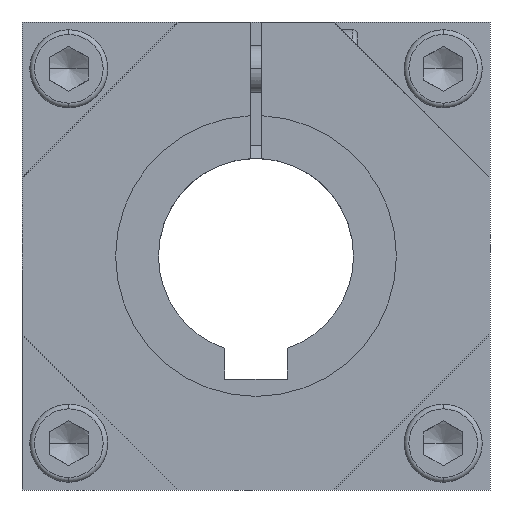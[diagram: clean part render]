
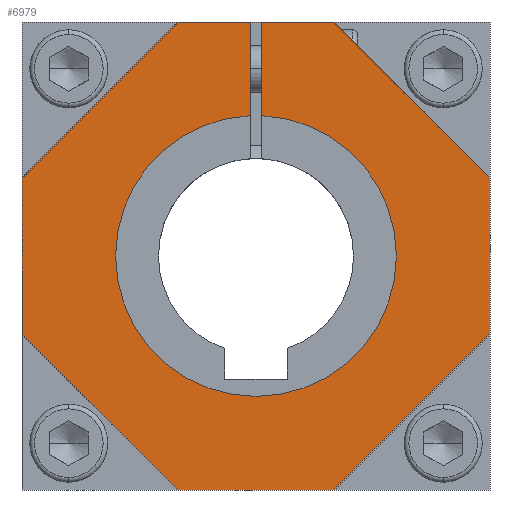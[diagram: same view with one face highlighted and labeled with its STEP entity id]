
A CAD part, front view. The second image highlights one B-rep face of the part: STEP entity #6979.
In plain terms, the highlighted planar face has unit normal (0, -1, 0).
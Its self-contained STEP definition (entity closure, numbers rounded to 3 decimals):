
#427=CARTESIAN_POINT('',(18.0,3.,0.));
#428=VERTEX_POINT('',#427);
#437=CARTESIAN_POINT('',(0.75,3.,17.984));
#438=VERTEX_POINT('',#437);
#439=CARTESIAN_POINT('',(0.0,3.,0.0));
#440=DIRECTION('',(0.0,-1.0,0.0));
#441=DIRECTION('',(-1.0,0.0,0.0));
#442=AXIS2_PLACEMENT_3D('',#439,#440,#441);
#443=CIRCLE('',#442,18.0);
#444=EDGE_CURVE('',#428,#438,#443,.T.);
#471=CARTESIAN_POINT('',(-18.0,3.,0.));
#472=VERTEX_POINT('',#471);
#488=CARTESIAN_POINT('',(-0.75,3.,17.984));
#489=VERTEX_POINT('',#488);
#496=CARTESIAN_POINT('',(0.0,3.,0.0));
#497=DIRECTION('',(0.0,-1.0,0.0));
#498=DIRECTION('',(-1.0,0.0,0.0));
#499=AXIS2_PLACEMENT_3D('',#496,#497,#498);
#500=CIRCLE('',#499,18.0);
#501=EDGE_CURVE('',#489,#472,#500,.T.);
#6122=CARTESIAN_POINT('',(30.0,3.,10.0));
#6123=VERTEX_POINT('',#6122);
#6130=CARTESIAN_POINT('',(30.0,3.,-10.));
#6131=VERTEX_POINT('',#6130);
#6132=CARTESIAN_POINT('',(30.0,3.,10.0));
#6133=DIRECTION('',(0.0,0.0,-1.0));
#6134=VECTOR('',#6133,20.);
#6135=LINE('',#6132,#6134);
#6136=EDGE_CURVE('',#6123,#6131,#6135,.T.);
#6185=CARTESIAN_POINT('',(10.,3.,30.0));
#6186=VERTEX_POINT('',#6185);
#6193=CARTESIAN_POINT('',(10.,3.,30.0));
#6194=DIRECTION('',(0.707,0.0,-0.707));
#6195=VECTOR('',#6194,28.284);
#6196=LINE('',#6193,#6195);
#6197=EDGE_CURVE('',#6186,#6123,#6196,.T.);
#6253=CARTESIAN_POINT('',(-0.75,3.,30.0));
#6254=VERTEX_POINT('',#6253);
#6261=CARTESIAN_POINT('',(-0.75,3.,17.984));
#6262=DIRECTION('',(0.0,0.0,1.0));
#6263=VECTOR('',#6262,12.016);
#6264=LINE('',#6261,#6263);
#6265=EDGE_CURVE('',#489,#6254,#6264,.T.);
#6341=CARTESIAN_POINT('',(-30.0,3.,-10.));
#6342=VERTEX_POINT('',#6341);
#6349=CARTESIAN_POINT('',(-30.0,3.,10.0));
#6350=VERTEX_POINT('',#6349);
#6351=CARTESIAN_POINT('',(-30.0,3.,-10.));
#6352=DIRECTION('',(0.0,0.0,1.0));
#6353=VECTOR('',#6352,20.);
#6354=LINE('',#6351,#6353);
#6355=EDGE_CURVE('',#6342,#6350,#6354,.T.);
#6372=CARTESIAN_POINT('',(-10.0,3.,30.0));
#6373=VERTEX_POINT('',#6372);
#6380=CARTESIAN_POINT('',(-10.0,3.,30.0));
#6381=DIRECTION('',(1.0,0.0,0.0));
#6382=VECTOR('',#6381,9.25);
#6383=LINE('',#6380,#6382);
#6384=EDGE_CURVE('',#6373,#6254,#6383,.T.);
#6418=CARTESIAN_POINT('',(0.75,3.,30.0));
#6419=VERTEX_POINT('',#6418);
#6426=CARTESIAN_POINT('',(0.75,3.,30.0));
#6427=DIRECTION('',(1.0,0.0,0.0));
#6428=VECTOR('',#6427,9.25);
#6429=LINE('',#6426,#6428);
#6430=EDGE_CURVE('',#6419,#6186,#6429,.T.);
#6458=CARTESIAN_POINT('',(0.75,3.,30.0));
#6459=DIRECTION('',(0.0,0.0,-1.0));
#6460=VECTOR('',#6459,12.016);
#6461=LINE('',#6458,#6460);
#6462=EDGE_CURVE('',#6419,#438,#6461,.T.);
#6555=CARTESIAN_POINT('',(0.0,3.,0.0));
#6556=DIRECTION('',(0.0,-1.0,0.0));
#6557=DIRECTION('',(-1.0,0.0,0.0));
#6558=AXIS2_PLACEMENT_3D('',#6555,#6556,#6557);
#6559=CIRCLE('',#6558,18.0);
#6560=EDGE_CURVE('',#472,#428,#6559,.T.);
#6934=CARTESIAN_POINT('',(0.,3.,0.));
#6935=DIRECTION('',(0.0,1.0,0.0));
#6936=DIRECTION('',(0.0,0.0,1.0));
#6937=AXIS2_PLACEMENT_3D('',#6934,#6935,#6936);
#6938=PLANE('',#6937);
#6939=ORIENTED_EDGE('',*,*,#6462,.T.);
#6940=ORIENTED_EDGE('',*,*,#444,.F.);
#6941=ORIENTED_EDGE('',*,*,#6560,.F.);
#6942=ORIENTED_EDGE('',*,*,#501,.F.);
#6943=ORIENTED_EDGE('',*,*,#6265,.T.);
#6944=ORIENTED_EDGE('',*,*,#6384,.F.);
#6945=CARTESIAN_POINT('',(-30.0,3.,10.0));
#6946=DIRECTION('',(0.707,0.0,0.707));
#6947=VECTOR('',#6946,28.284);
#6948=LINE('',#6945,#6947);
#6949=EDGE_CURVE('',#6350,#6373,#6948,.T.);
#6950=ORIENTED_EDGE('',*,*,#6949,.F.);
#6951=ORIENTED_EDGE('',*,*,#6355,.F.);
#6952=CARTESIAN_POINT('',(-10.0,3.,-30.0));
#6953=VERTEX_POINT('',#6952);
#6954=CARTESIAN_POINT('',(-10.0,3.,-30.0));
#6955=DIRECTION('',(-0.707,0.0,0.707));
#6956=VECTOR('',#6955,28.284);
#6957=LINE('',#6954,#6956);
#6958=EDGE_CURVE('',#6953,#6342,#6957,.T.);
#6959=ORIENTED_EDGE('',*,*,#6958,.F.);
#6960=CARTESIAN_POINT('',(10.0,3.,-30.0));
#6961=VERTEX_POINT('',#6960);
#6962=CARTESIAN_POINT('',(10.0,3.,-30.0));
#6963=DIRECTION('',(-1.0,0.0,0.0));
#6964=VECTOR('',#6963,20.0);
#6965=LINE('',#6962,#6964);
#6966=EDGE_CURVE('',#6961,#6953,#6965,.T.);
#6967=ORIENTED_EDGE('',*,*,#6966,.F.);
#6968=CARTESIAN_POINT('',(30.0,3.,-10.));
#6969=DIRECTION('',(-0.707,0.0,-0.707));
#6970=VECTOR('',#6969,28.284);
#6971=LINE('',#6968,#6970);
#6972=EDGE_CURVE('',#6131,#6961,#6971,.T.);
#6973=ORIENTED_EDGE('',*,*,#6972,.F.);
#6974=ORIENTED_EDGE('',*,*,#6136,.F.);
#6975=ORIENTED_EDGE('',*,*,#6197,.F.);
#6976=ORIENTED_EDGE('',*,*,#6430,.F.);
#6977=EDGE_LOOP('',(#6939,#6940,#6941,#6942,#6943,#6944,#6950,#6951,#6959,#6967,#6973,#6974,#6975,#6976));
#6978=FACE_OUTER_BOUND('',#6977,.T.);
#6979=ADVANCED_FACE('',(#6978),#6938,.F.);
